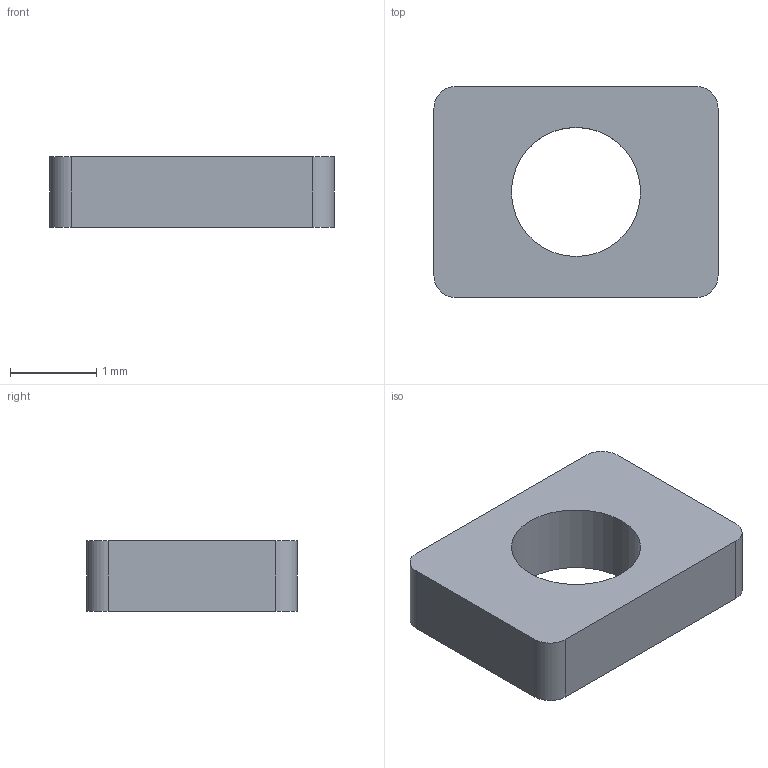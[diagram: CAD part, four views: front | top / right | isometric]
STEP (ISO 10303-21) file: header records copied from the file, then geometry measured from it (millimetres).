
FILE_DESCRIPTION(('Open CASCADE Model'),'2;1');
FILE_NAME('C27_R2_Microphone_Acoustic_Seal','2026-09-10T02:58:45',( 'Author'),('Open CASCADE'),'Open CASCADE STEP processor 7.9', 'build123d','Unknown');
FILE_SCHEMA(('AUTOMOTIVE_DESIGN { 1 0 10303 214 1 1 1 1 }'));
Length unit declared in the file: millimetre
Products named in the file (1): C27_R2_Microphone_Acoustic_Seal
Bounding box: 3.3 x 2.45 x 0.82 mm (x, y, z)
Volume: 5.1 mm3; surface area: 25.5 mm2
Topology: 1 solids, 1 shells, 11 faces, 27 edges, 18 vertices
Faces by surface type: plane 6, cylinder 5
Full cylindrical faces by diameter (mm): 1.5 x1
Entity records: 720 total; most frequent: CARTESIAN_POINT 159, DIRECTION 107, LINE 61, VECTOR 61, ORIENTED_EDGE 54, PCURVE 54, DEFINITIONAL_REPRESENTATION 54, EDGE_CURVE 27
